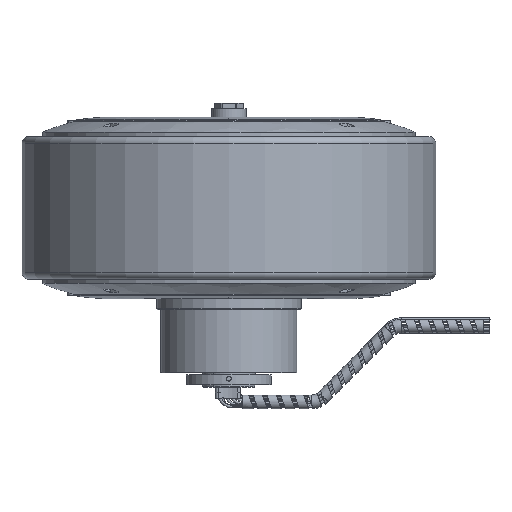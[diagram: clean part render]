
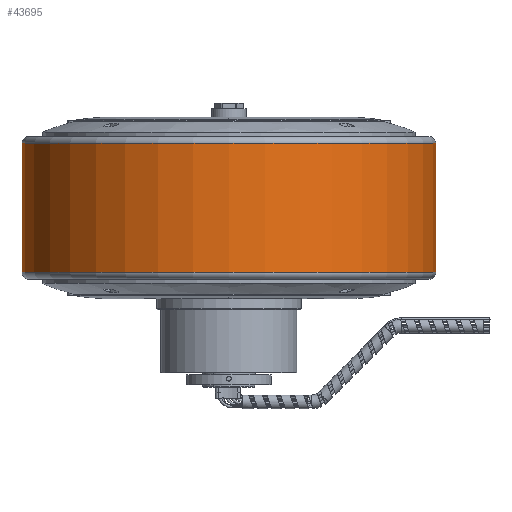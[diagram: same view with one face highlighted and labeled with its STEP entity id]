
A CAD part, front view. The second image highlights one B-rep face of the part: STEP entity #43695.
In plain terms, the highlighted cylindrical face has radius 150 mm (diameter 300 mm), a partial arc.
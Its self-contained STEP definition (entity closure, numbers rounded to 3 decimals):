
#1928 = AXIS2_PLACEMENT_3D ( 'NONE', #3755, #16162, #30373 ) ;
#2576 = VECTOR ( 'NONE', #18936, 1000. ) ;
#2608 = VERTEX_POINT ( 'NONE', #19492 ) ;
#3685 = FACE_OUTER_BOUND ( 'NONE', #9139, .T. ) ;
#3755 = CARTESIAN_POINT ( 'NONE',  ( 0., 0., 88.5 ) ) ;
#4090 = ORIENTED_EDGE ( 'NONE', *, *, #23938, .T. ) ;
#4117 = CARTESIAN_POINT ( 'NONE',  ( 0., 0., -5. ) ) ;
#4631 = ORIENTED_EDGE ( 'NONE', *, *, #17109, .T. ) ;
#7525 = DIRECTION ( 'NONE',  ( 1., 0., 0. ) ) ;
#8042 = EDGE_CURVE ( 'NONE', #20800, #40026, #37348, .T. ) ;
#8340 = DIRECTION ( 'NONE',  ( 1., 0., 0. ) ) ;
#8429 = VECTOR ( 'NONE', #10486, 1000. ) ;
#9139 = EDGE_LOOP ( 'NONE', ( #18514, #4631, #4090, #30439 ) ) ;
#9506 = CIRCLE ( 'NONE', #13777, 150. ) ;
#10486 = DIRECTION ( 'NONE',  ( 0., 0., 1. ) ) ;
#13777 = AXIS2_PLACEMENT_3D ( 'NONE', #4117, #27729, #7525 ) ;
#14878 = VERTEX_POINT ( 'NONE', #38224 ) ;
#16162 = DIRECTION ( 'NONE',  ( 0., 0., -1. ) ) ;
#17109 = EDGE_CURVE ( 'NONE', #2608, #14878, #9506, .T. ) ;
#18034 = EDGE_CURVE ( 'NONE', #2608, #40026, #36427, .T. ) ;
#18498 = CARTESIAN_POINT ( 'NONE',  ( 0., 0., 93.5 ) ) ;
#18514 = ORIENTED_EDGE ( 'NONE', *, *, #18034, .F. ) ;
#18936 = DIRECTION ( 'NONE',  ( 0., 0., 1. ) ) ;
#19492 = CARTESIAN_POINT ( 'NONE',  ( -150., 0., -5. ) ) ;
#20504 = CARTESIAN_POINT ( 'NONE',  ( -150., 0., 93.5 ) ) ;
#20800 = VERTEX_POINT ( 'NONE', #21255 ) ;
#21255 = CARTESIAN_POINT ( 'NONE',  ( 150., 0., 88.5 ) ) ;
#23938 = EDGE_CURVE ( 'NONE', #14878, #20800, #29551, .T. ) ;
#24647 = CARTESIAN_POINT ( 'NONE',  ( -150., 0., 88.5 ) ) ;
#25479 = CARTESIAN_POINT ( 'NONE',  ( 150., 0., 93.5 ) ) ;
#27729 = DIRECTION ( 'NONE',  ( 0., 0., 1. ) ) ;
#29551 = LINE ( 'NONE', #25479, #2576 ) ;
#30373 = DIRECTION ( 'NONE',  ( -1., 0., 0. ) ) ;
#30439 = ORIENTED_EDGE ( 'NONE', *, *, #8042, .T. ) ;
#36427 = LINE ( 'NONE', #20504, #8429 ) ;
#36444 = CYLINDRICAL_SURFACE ( 'NONE', #43570, 150. ) ;
#37348 = CIRCLE ( 'NONE', #1928, 150. ) ;
#38224 = CARTESIAN_POINT ( 'NONE',  ( 150., 0., -5. ) ) ;
#40026 = VERTEX_POINT ( 'NONE', #24647 ) ;
#42230 = DIRECTION ( 'NONE',  ( 0., 0., 1. ) ) ;
#43570 = AXIS2_PLACEMENT_3D ( 'NONE', #18498, #42230, #8340 ) ;
#43695 = ADVANCED_FACE ( 'NONE', ( #3685 ), #36444, .T. ) ;
